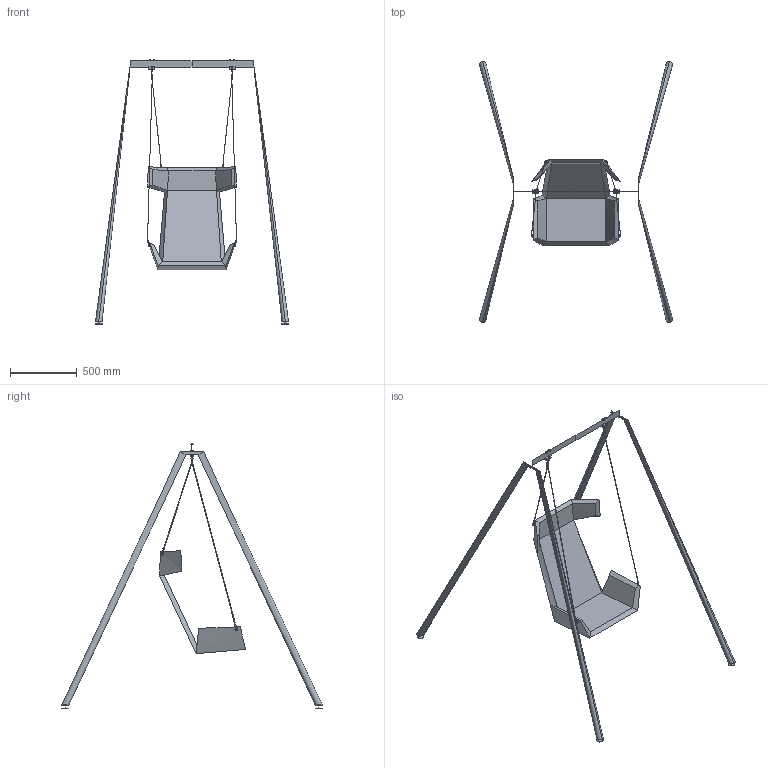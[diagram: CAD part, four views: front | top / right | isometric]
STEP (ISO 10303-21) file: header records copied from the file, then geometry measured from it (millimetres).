
FILE_DESCRIPTION(/* description */ (''),/* implementation_level */ '2;1');
FILE_NAME(/* name */ 'FLEXI FL-SW-N1,FL-SW-XL',/* time_stamp */ '2022-07-14T15:44:06+02:00',/* author */ (''),/* organization */ (''),/* preprocessor_version */ 'ST-DEVELOPER v16.5',/* originating_system */ 'Rhino 7.19',/* authorisation */ '');
FILE_SCHEMA (('CONFIG_CONTROL_DESIGN'));
Length unit declared in the file: millimetre
Products named in the file (1): Document
Bounding box: 1450.06 x 1961.24 x 1983.98 mm (x, y, z)
Volume: 56404605.7 mm3; surface area: 3380169.2 mm2
Topology: 27 solids, 37 shells, 410 faces, 835 edges, 484 vertices
Faces by surface type: cylinder 148, plane 140, bspline 122
Entity records: 23335 total; most frequent: CARTESIAN_POINT 17813, ORIENTED_EDGE 1624, EDGE_CURVE 832, VERTEX_POINT 484, EDGE_LOOP 418, ADVANCED_FACE 410, FACE_OUTER_BOUND 410, DIRECTION 299
